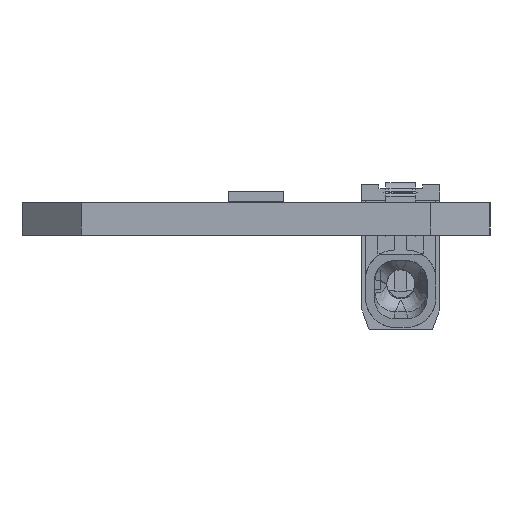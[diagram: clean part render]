
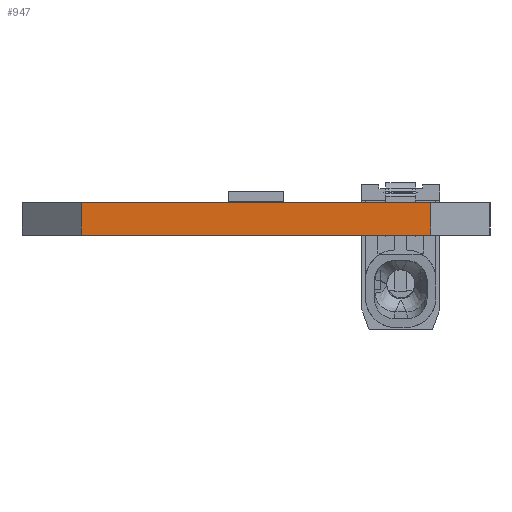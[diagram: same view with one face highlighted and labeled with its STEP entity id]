
A CAD part, left-side view. The second image highlights one B-rep face of the part: STEP entity #947.
In plain terms, the highlighted planar face has unit normal (-1, 0, 0).
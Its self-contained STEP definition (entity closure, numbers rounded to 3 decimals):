
#6=DIRECTION('',(0.,1.,0.));
#7=VECTOR('',#6,17.6);
#8=CARTESIAN_POINT('',(-139.5,-8.8,0.));
#9=LINE('',#8,#7);
#191=DIRECTION('',(0.,0.,1.));
#192=VECTOR('',#191,1.65);
#193=CARTESIAN_POINT('',(-139.5,-8.8,0.));
#194=LINE('',#193,#192);
#195=DIRECTION('',(0.,1.,0.));
#196=VECTOR('',#195,17.6);
#197=CARTESIAN_POINT('',(-139.5,-8.8,1.65));
#198=LINE('',#197,#196);
#358=DIRECTION('',(0.,0.,1.));
#359=VECTOR('',#358,1.65);
#360=CARTESIAN_POINT('',(-139.5,8.8,0.));
#361=LINE('',#360,#359);
#624=CARTESIAN_POINT('',(-139.5,-8.8,0.));
#625=CARTESIAN_POINT('',(-139.5,-8.8,1.65));
#626=VERTEX_POINT('',#624);
#627=VERTEX_POINT('',#625);
#628=CARTESIAN_POINT('',(-139.5,8.8,1.65));
#629=VERTEX_POINT('',#628);
#810=CARTESIAN_POINT('',(-139.5,8.8,0.));
#811=VERTEX_POINT('',#810);
#933=CARTESIAN_POINT('',(-139.5,8.8,1.65));
#934=DIRECTION('',(-1.,0.,0.));
#935=DIRECTION('',(0.,0.,1.));
#936=AXIS2_PLACEMENT_3D('',#933,#934,#935);
#937=PLANE('',#936);
#939=ORIENTED_EDGE('',*,*,#938,.F.);
#940=ORIENTED_EDGE('',*,*,#837,.T.);
#942=ORIENTED_EDGE('',*,*,#941,.T.);
#944=ORIENTED_EDGE('',*,*,#943,.F.);
#945=EDGE_LOOP('',(#939,#940,#942,#944));
#946=FACE_OUTER_BOUND('',#945,.F.);
#947=ADVANCED_FACE('',(#946),#937,.T.);
#837=EDGE_CURVE('',#626,#811,#9,.T.);
#938=EDGE_CURVE('',#626,#627,#194,.T.);
#941=EDGE_CURVE('',#811,#629,#361,.T.);
#943=EDGE_CURVE('',#627,#629,#198,.T.);
